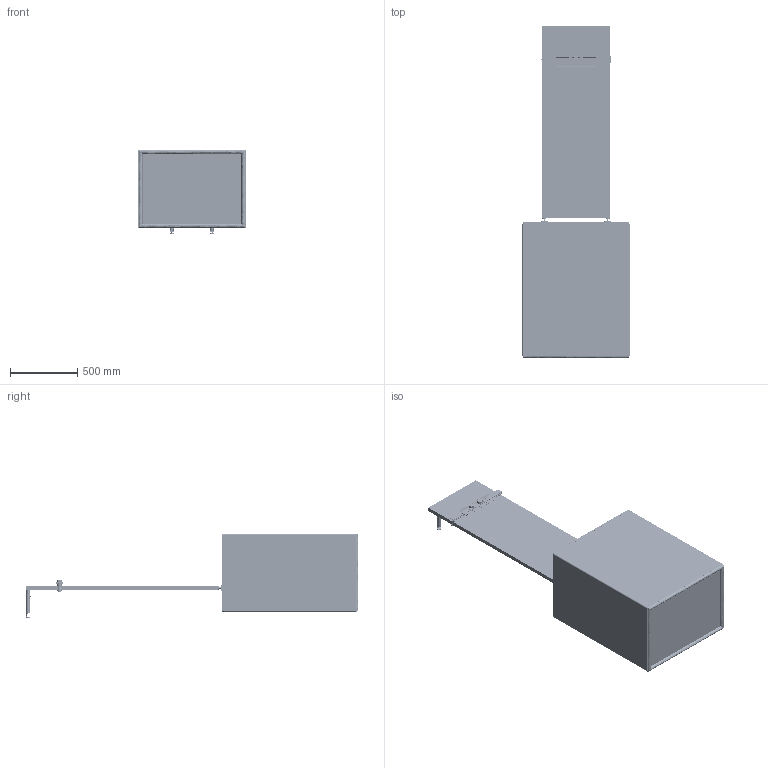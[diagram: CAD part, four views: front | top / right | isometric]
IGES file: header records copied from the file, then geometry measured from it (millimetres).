
Start section: SolidWorks IGES file using analytic representation for surfaces
Global section: file name: O:\PD\2020 New Product Launch\CAD place holder\Modulate\MOD-KIOSK\MOD-KIOSK 96in.IGS; native system: SolidWorks 2018; preprocessor: SolidWorks 2018; author: dholley; date: 190822.095305; units: millimetre
Bounding box: 802 x 2472.72 x 629.66 mm (x, y, z)
Surface area: 10615297.4 mm2 (no closed solid volume)
Topology: 0 solids, 0 shells, 4683 faces, 70652 edges, 70528 vertices
Faces by surface type: bspline 2769, revolution 1914
